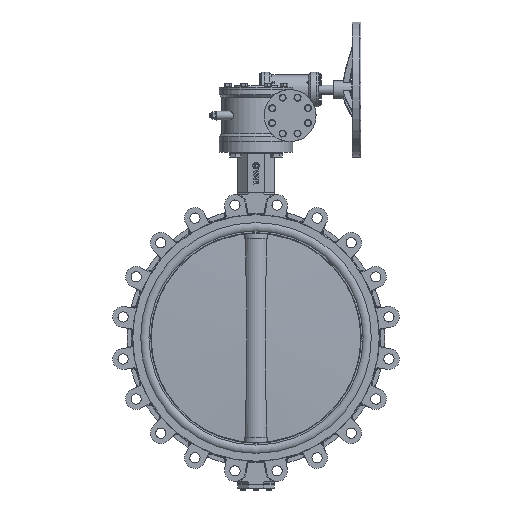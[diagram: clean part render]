
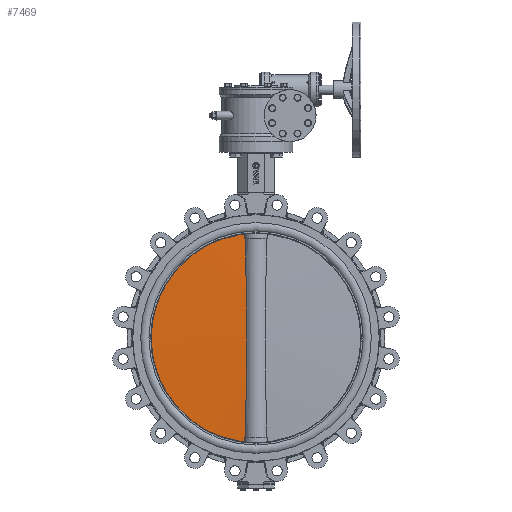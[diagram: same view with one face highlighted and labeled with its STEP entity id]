
A CAD part, left-side view. The second image highlights one B-rep face of the part: STEP entity #7469.
In plain terms, the highlighted spherical face has radius 6003.75 mm.
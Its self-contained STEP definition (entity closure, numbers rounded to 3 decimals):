
#7469=ADVANCED_FACE('',(#14181),#14183,.T.);
#14181=FACE_BOUND('',#14182,.T.);
#14182=EDGE_LOOP('',(#25789,#25790,#25791,#25792,#25793,#25794));
#14183=SPHERICAL_SURFACE('',#14184,6003.75);
#14184=AXIS2_PLACEMENT_3D('',#14185,#14186,#14187);
#14185=CARTESIAN_POINT('',(0.,-5980.75,0.));
#14186=DIRECTION('',(0.,-1.,0.));
#14187=DIRECTION('',(0.,0.,1.));
#25789=ORIENTED_EDGE('',*,*,#29615,.F.);
#25790=ORIENTED_EDGE('',*,*,#29627,.F.);
#25791=ORIENTED_EDGE('',*,*,#29628,.T.);
#25792=ORIENTED_EDGE('',*,*,#29629,.F.);
#25793=ORIENTED_EDGE('',*,*,#29598,.F.);
#25794=ORIENTED_EDGE('',*,*,#29626,.T.);
#29598=EDGE_CURVE('',#34057,#34058,#34059,.F.);
#29615=EDGE_CURVE('',#34090,#34075,#34092,.T.);
#29626=EDGE_CURVE('',#34057,#34075,#34107,.T.);
#29627=EDGE_CURVE('',#34108,#34090,#34109,.T.);
#29628=EDGE_CURVE('',#34108,#34110,#34111,.T.);
#29629=EDGE_CURVE('',#34058,#34110,#34112,.T.);
#34057=VERTEX_POINT('',#50087);
#34058=VERTEX_POINT('',#50088);
#34059=B_SPLINE_CURVE_WITH_KNOTS('',3,
(#50089,#50090,#50091,#50092,#50093,#50094,#50095,#50096,#50097,#50098,#50099,#50100,
#50101,#50102,#50103,#50104,#50105,#50106,#50107,#50108,#50109,#50110,#50111,#50112,
#50113,#50114,#50115),
.UNSPECIFIED.,.F.,.F.,
(4,1,1,1,1,1,1,1,1,1,1,1,1,1,1,1,1,1,1,1,1,1,1,1,4),
(0.,0.035,0.071,0.107,0.144,0.181,
0.218,0.256,0.295,0.333,0.373,
0.413,0.455,0.497,0.54,0.583,
0.628,0.673,0.718,0.764,0.811,
0.858,0.905,0.952,1.),
.UNSPECIFIED.);
#34075=VERTEX_POINT('',#50336);
#34090=VERTEX_POINT('',#50553);
#34092=B_SPLINE_CURVE_WITH_KNOTS('',3,
(#50558,#50559,#50560,#50561,#50562,#50563,#50564,#50565,#50566,#50567,#50568,#50569,
#50570,#50571,#50572,#50573,#50574,#50575,#50576,#50577,#50578,#50579,#50580,#50581,
#50582,#50583,#50584),
.UNSPECIFIED.,.F.,.F.,
(4,1,1,1,1,1,1,1,1,1,1,1,1,1,1,1,1,1,1,1,1,1,1,1,4),
(0.,0.035,0.071,0.107,0.144,0.181,
0.218,0.256,0.295,0.333,0.373,
0.413,0.455,0.497,0.54,0.583,
0.628,0.673,0.718,0.764,0.811,
0.858,0.905,0.952,1.),
.UNSPECIFIED.);
#34107=CIRCLE('',#50657,300.);
#34108=VERTEX_POINT('',#50661);
#34109=CIRCLE('',#50662,5997.041);
#34110=VERTEX_POINT('',#50666);
#34111=B_SPLINE_CURVE_WITH_KNOTS('',3,
(#50667,#50668,#50669,#50670,#50671,#50672,#50673,#50674,#50675,#50676,#50677,#50678,
#50679,#50680,#50681,#50682,#50683,#50684,#50685,#50686),
.UNSPECIFIED.,.F.,.F.,
(4,1,1,1,1,1,1,1,1,1,1,1,1,1,1,1,1,4),
(0.,0.073,0.147,0.222,0.299,0.378,
0.46,0.5,0.545,0.617,0.676,
0.722,0.767,0.813,0.859,0.906,
0.953,1.),
.UNSPECIFIED.);
#34112=CIRCLE('',#50687,5997.041);
#50087=CARTESIAN_POINT('',(33.128,15.5,298.165));
#50088=CARTESIAN_POINT('',(32.791,16.201,283.75));
#50089=CARTESIAN_POINT('',(32.791,16.201,283.75));
#50090=CARTESIAN_POINT('',(32.795,16.193,283.92));
#50091=CARTESIAN_POINT('',(32.803,16.177,284.263));
#50092=CARTESIAN_POINT('',(32.815,16.152,284.778));
#50093=CARTESIAN_POINT('',(32.827,16.128,285.299));
#50094=CARTESIAN_POINT('',(32.84,16.103,285.824));
#50095=CARTESIAN_POINT('',(32.852,16.077,286.356));
#50096=CARTESIAN_POINT('',(32.865,16.051,286.895));
#50097=CARTESIAN_POINT('',(32.878,16.025,287.443));
#50098=CARTESIAN_POINT('',(32.891,15.998,287.997));
#50099=CARTESIAN_POINT('',(32.904,15.971,288.56));
#50100=CARTESIAN_POINT('',(32.917,15.944,289.131));
#50101=CARTESIAN_POINT('',(32.931,15.915,289.714));
#50102=CARTESIAN_POINT('',(32.945,15.887,290.308));
#50103=CARTESIAN_POINT('',(32.959,15.857,290.915));
#50104=CARTESIAN_POINT('',(32.973,15.827,291.533));
#50105=CARTESIAN_POINT('',(32.988,15.796,292.164));
#50106=CARTESIAN_POINT('',(33.003,15.765,292.803));
#50107=CARTESIAN_POINT('',(33.018,15.733,293.451));
#50108=CARTESIAN_POINT('',(33.033,15.701,294.106));
#50109=CARTESIAN_POINT('',(33.049,15.668,294.769));
#50110=CARTESIAN_POINT('',(33.065,15.635,295.438));
#50111=CARTESIAN_POINT('',(33.08,15.602,296.114));
#50112=CARTESIAN_POINT('',(33.096,15.568,296.794));
#50113=CARTESIAN_POINT('',(33.112,15.534,297.478));
#50114=CARTESIAN_POINT('',(33.123,15.511,297.936));
#50115=CARTESIAN_POINT('',(33.128,15.5,298.165));
#50336=CARTESIAN_POINT('',(33.128,15.5,-298.165));
#50553=CARTESIAN_POINT('',(32.791,16.201,-283.75));
#50558=CARTESIAN_POINT('',(32.791,16.201,-283.75));
#50559=CARTESIAN_POINT('',(32.795,16.193,-283.92));
#50560=CARTESIAN_POINT('',(32.803,16.177,-284.263));
#50561=CARTESIAN_POINT('',(32.815,16.152,-284.778));
#50562=CARTESIAN_POINT('',(32.827,16.128,-285.299));
#50563=CARTESIAN_POINT('',(32.84,16.103,-285.824));
#50564=CARTESIAN_POINT('',(32.852,16.077,-286.356));
#50565=CARTESIAN_POINT('',(32.865,16.051,-286.895));
#50566=CARTESIAN_POINT('',(32.878,16.025,-287.443));
#50567=CARTESIAN_POINT('',(32.891,15.998,-287.997));
#50568=CARTESIAN_POINT('',(32.904,15.971,-288.56));
#50569=CARTESIAN_POINT('',(32.917,15.944,-289.131));
#50570=CARTESIAN_POINT('',(32.931,15.915,-289.714));
#50571=CARTESIAN_POINT('',(32.945,15.887,-290.308));
#50572=CARTESIAN_POINT('',(32.959,15.857,-290.915));
#50573=CARTESIAN_POINT('',(32.973,15.827,-291.533));
#50574=CARTESIAN_POINT('',(32.988,15.796,-292.164));
#50575=CARTESIAN_POINT('',(33.003,15.765,-292.803));
#50576=CARTESIAN_POINT('',(33.018,15.733,-293.451));
#50577=CARTESIAN_POINT('',(33.033,15.701,-294.106));
#50578=CARTESIAN_POINT('',(33.049,15.668,-294.769));
#50579=CARTESIAN_POINT('',(33.065,15.635,-295.438));
#50580=CARTESIAN_POINT('',(33.08,15.602,-296.114));
#50581=CARTESIAN_POINT('',(33.096,15.568,-296.794));
#50582=CARTESIAN_POINT('',(33.112,15.534,-297.478));
#50583=CARTESIAN_POINT('',(33.123,15.511,-297.936));
#50584=CARTESIAN_POINT('',(33.128,15.5,-298.165));
#50657=AXIS2_PLACEMENT_3D('',#50658,#50659,#50660);
#50658=CARTESIAN_POINT('',(0.,15.5,0.));
#50659=DIRECTION('',(0.,1.,0.));
#50660=DIRECTION('',(0.11,0.,0.994));
#50661=CARTESIAN_POINT('',(31.02,16.211,-283.75));
#50662=AXIS2_PLACEMENT_3D('',#50663,#50664,#50665);
#50663=CARTESIAN_POINT('',(0.,-5980.75,-283.75));
#50664=DIRECTION('',(0.,0.,-1.));
#50665=DIRECTION('',(0.005,1.,0.));
#50666=CARTESIAN_POINT('',(31.02,16.211,283.75));
#50667=CARTESIAN_POINT('',(31.02,16.211,-283.75));
#50668=CARTESIAN_POINT('',(30.678,16.864,-269.973));
#50669=CARTESIAN_POINT('',(29.988,18.083,-242.262));
#50670=CARTESIAN_POINT('',(28.989,19.637,-200.303));
#50671=CARTESIAN_POINT('',(28.073,20.918,-157.573));
#50672=CARTESIAN_POINT('',(27.297,21.915,-113.768));
#50673=CARTESIAN_POINT('',(26.724,22.605,-68.739));
#50674=CARTESIAN_POINT('',(26.471,22.898,-30.662));
#50675=CARTESIAN_POINT('',(26.418,22.958,0.882));
#50676=CARTESIAN_POINT('',(26.473,22.895,30.672));
#50677=CARTESIAN_POINT('',(26.695,22.638,64.063));
#50678=CARTESIAN_POINT('',(27.084,22.172,97.502));
#50679=CARTESIAN_POINT('',(27.514,21.636,125.833));
#50680=CARTESIAN_POINT('',(27.976,21.037,151.684));
#50681=CARTESIAN_POINT('',(28.503,20.319,177.759));
#50682=CARTESIAN_POINT('',(29.085,19.48,204.056));
#50683=CARTESIAN_POINT('',(29.707,18.52,230.5));
#50684=CARTESIAN_POINT('',(30.357,17.436,257.09));
#50685=CARTESIAN_POINT('',(30.799,16.633,274.851));
#50686=CARTESIAN_POINT('',(31.02,16.211,283.75));
#50687=AXIS2_PLACEMENT_3D('',#50688,#50689,#50690);
#50688=CARTESIAN_POINT('',(0.,-5980.75,283.75));
#50689=DIRECTION('',(0.,0.,1.));
#50690=DIRECTION('',(0.005,1.,0.));
